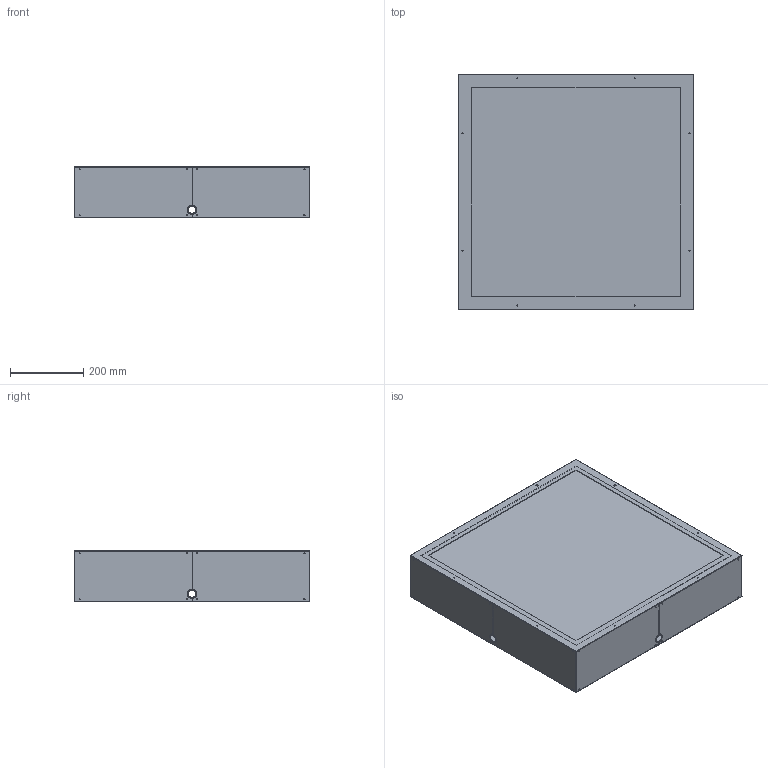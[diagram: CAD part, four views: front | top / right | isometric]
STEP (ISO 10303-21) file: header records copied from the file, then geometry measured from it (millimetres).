
FILE_DESCRIPTION(/* description */ (''),/* implementation_level */ '2;1');
FILE_NAME(/* name */ 'C:/Users/elena/Downloads/Corner QNP 60.step',/* time_stamp */ '2020-06-17T12:48:45+02:00',/* author */ (''),/* organization */ (''),/* preprocessor_version */ 'ST-DEVELOPER v18.1',/* originating_system */ 'Autodesk Translation Framework v9.3.0.1241',/* authorisation */ '');
FILE_SCHEMA (('AUTOMOTIVE_DESIGN { 1 0 10303 214 3 1 1 }'));
Length unit declared in the file: millimetre
Products named in the file (1): (Unsaved)
Bounding box: 640.4 x 640.4 x 138.2 mm (x, y, z)
Volume: 2593722.8 mm3; surface area: 3754343.7 mm2
Topology: 3 solids, 3 shells, 478 faces, 1372 edges, 882 vertices
Faces by surface type: plane 344, cylinder 112, bspline 22
Full cylindrical faces by diameter (mm): 3 x56, 4.5 x12, 26 x4
Entity records: 18921 total; most frequent: CARTESIAN_POINT 5866, ORIENTED_EDGE 2744, DIRECTION 2546, EDGE_CURVE 1372, LINE 1016, VECTOR 1016, VERTEX_POINT 882, AXIS2_PLACEMENT_3D 765
